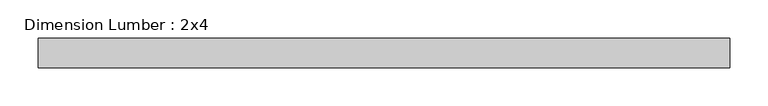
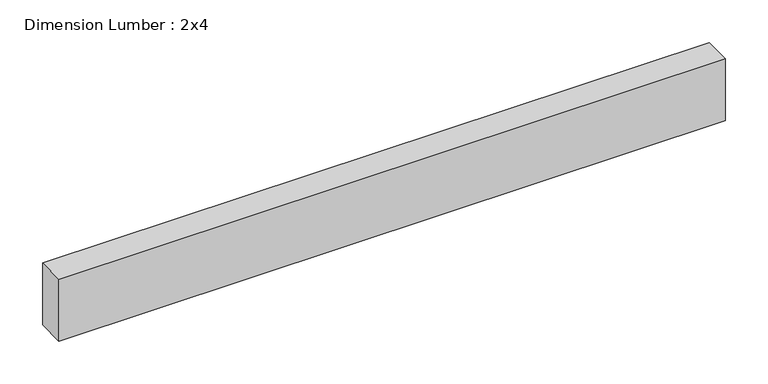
"""IFC4 building model written with IfcOpenShell, lengths in millimetres: beam geometry, Dimension Lumber : 2x4."""

import ifcopenshell
import ifcopenshell.guid

model = None  # the IFC model being written
_history = None  # IfcOwnerHistory: only IFC2X3 demands one
_inside = {}  # id of a spatial element -> (the spatial element, [elements in it])
_under = {}  # id of a project, library or spatial element -> (it, [spatial elements below it])
_declared = {}  # id of a project -> (the project, [libraries it declares])
_typed = {}  # id of a type object -> (the type object, [elements of that type])
_made_of = {}  # id of a material, layer set ... -> (it, [elements and type objects made of it])


def new_model(schema):
    """Start an empty IFC model of exactly this schema.

    Asked for "IFC4X3", IfcOpenShell would pick the latest addendum, in which some entities
    have other attributes; the version numbers below select the first issue.
    IFC2X3 requires an IfcOwnerHistory on every rooted entity: one is made here for all.
    """
    global model, _history
    if schema == "IFC4X3":
        model = ifcopenshell.file(schema_version=(4, 3, 0, 0))
    else:
        model = ifcopenshell.file(schema=schema)
    _inside.clear()
    _under.clear()
    _declared.clear()
    _typed.clear()
    _made_of.clear()
    _history = None
    if model.schema == "IFC2X3":
        org = make("IfcOrganization", Name="unknown")
        user = make(
            "IfcPersonAndOrganization",
            ThePerson=make("IfcPerson", FamilyName="unknown"),
            TheOrganization=org,
        )
        app = make(
            "IfcApplication",
            ApplicationDeveloper=org,
            Version="unknown",
            ApplicationFullName="unknown",
            ApplicationIdentifier="unknown",
        )
        _history = make(
            "IfcOwnerHistory",
            OwningUser=user,
            OwningApplication=app,
            ChangeAction="ADDED",
            CreationDate=0,
        )
    return model


def make(cls, **values):
    """One entity of the class cls with the attributes given. An attribute that is None is left unset."""
    return model.create_entity(
        cls, **{name: value for name, value in values.items() if value is not None}
    )


def rooted(cls, **values):
    """An entity with a GlobalId (a new one), such as an element, a storey or a relation."""
    return make(cls, GlobalId=ifcopenshell.guid.new(), OwnerHistory=_history, **values)


def si_unit(unit_type, name, prefix=None):
    """IfcSIUnit, for example si_unit("LENGTHUNIT", "METRE", prefix="MILLI")."""
    return make("IfcSIUnit", UnitType=unit_type, Prefix=prefix, Name=name)


def assignment(units):
    """IfcUnitAssignment: the units of a project."""
    return None if units is None else make("IfcUnitAssignment", Units=units)


def point(xyz):
    """IfcCartesianPoint."""
    return None if xyz is None else make("IfcCartesianPoint", Coordinates=xyz)


def direction(xyz):
    """IfcDirection."""
    return None if xyz is None else make("IfcDirection", DirectionRatios=xyz)


def frame(location, z_axis=None, x_axis=None):
    """IfcAxis2Placement3D, a coordinate frame: its origin and axes. An axis left out is left unset."""
    return make(
        "IfcAxis2Placement3D",
        Location=point(location),
        Axis=direction(z_axis),
        RefDirection=direction(x_axis),
    )


def origin():
    """The frame at (0, 0, 0) with its axes left unset."""
    return frame((0.0, 0.0, 0.0))


def place(relative_to, where):
    """IfcLocalPlacement: puts the frame where relative to a parent placement (None: the world)."""
    return make(
        "IfcLocalPlacement", PlacementRelTo=relative_to, RelativePlacement=where
    )


def context(
    kind, dimensions, precision=None, world=None, true_north=None, identifier=None
):
    """IfcGeometricRepresentationContext, for example the 3D "Model" context."""
    return make(
        "IfcGeometricRepresentationContext",
        ContextIdentifier=identifier,
        ContextType=kind,
        CoordinateSpaceDimension=dimensions,
        Precision=precision,
        WorldCoordinateSystem=world,
        TrueNorth=true_north,
    )


def project(units=None, contexts=None):
    """IfcProject with its units and contexts."""
    return rooted(
        "IfcProject",
        Name="project",
        RepresentationContexts=contexts,
        UnitsInContext=assignment(units),
    )


def spatial(cls, under=None, at=None, **own):
    """A site, building, storey or space (cls), placed at a placement, below another one or the project."""
    s = rooted(cls, ObjectPlacement=at, **own)
    if under is not None:
        _under.setdefault(under.id(), (under, []))[1].append(s)
    return s


def polyline(points):
    """IfcPolyline through the points."""
    return make("IfcPolyline", Points=[point(p) for p in points])


def outline(outer, holes=None, kind="AREA"):
    """IfcArbitraryClosedProfileDef: a profile drawn as a closed curve; with holes, ...WithVoids."""
    if holes is None:
        return make("IfcArbitraryClosedProfileDef", ProfileType=kind, OuterCurve=outer)
    return make(
        "IfcArbitraryProfileDefWithVoids",
        ProfileType=kind,
        OuterCurve=outer,
        InnerCurves=holes,
    )


def extrude(swept, where, along, depth):
    """IfcExtrudedAreaSolid: the profile swept, set in the frame where, extruded along a direction by depth."""
    return make(
        "IfcExtrudedAreaSolid",
        SweptArea=swept,
        Position=where,
        ExtrudedDirection=direction(along),
        Depth=depth,
    )


def shape(context_of_items, identifier, shape_type, items):
    """IfcShapeRepresentation: the items that make up one representation, for example the "Body"."""
    return make(
        "IfcShapeRepresentation",
        ContextOfItems=context_of_items,
        RepresentationIdentifier=identifier,
        RepresentationType=shape_type,
        Items=items,
    )


def source(mapping_origin, context_of_items, identifier, shape_type, items):
    """IfcRepresentationMap: a shape defined once, which mapped items show again and again."""
    return make(
        "IfcRepresentationMap",
        MappingOrigin=mapping_origin,
        MappedRepresentation=shape(context_of_items, identifier, shape_type, items),
    )


def transform(
    local_origin,
    x_axis=None,
    y_axis=None,
    z_axis=None,
    scale=None,
    scale2=None,
    scale3=None,
    uniform=True,
):
    """IfcCartesianTransformationOperator3D, or its non-uniform kind. x_axis, y_axis, z_axis: its Axis1, 2, 3."""
    if uniform:
        return make(
            "IfcCartesianTransformationOperator3D",
            Axis1=direction(x_axis),
            Axis2=direction(y_axis),
            LocalOrigin=point(local_origin),
            Scale=scale,
            Axis3=direction(z_axis),
        )
    return make(
        "IfcCartesianTransformationOperator3DnonUniform",
        Axis1=direction(x_axis),
        Axis2=direction(y_axis),
        LocalOrigin=point(local_origin),
        Scale=scale,
        Axis3=direction(z_axis),
        Scale2=scale2,
        Scale3=scale3,
    )


def mapped(mapping_source, mapping_target):
    """IfcMappedItem: shows the shape of a source again, moved by a transform."""
    return make(
        "IfcMappedItem", MappingSource=mapping_source, MappingTarget=mapping_target
    )


def made_of(thing, what):
    """Note that an element or type object is made of a material, layer set ...; save() writes the relation."""
    if what is not None:
        _made_of.setdefault(what.id(), (what, []))[1].append(thing)
    return thing


def element(
    cls,
    number,
    at=None,
    inside=None,
    cuts=None,
    type_object=None,
    material=None,
    context=None,
    identifier="Body",
    shape_type=None,
    held_by="IfcProductDefinitionShape",
    body=None,
    shapes=None,
    **own,
):
    """One element of the class cls, such as IfcWall. Its Tag is "e" and its number.

    at: its placement. inside: the storey or other place that contains it. cuts: it is an
    opening in that element (IfcRelVoidsElement). A single representation is given by context,
    identifier, shape_type and body (its items); several are given by shapes. held_by: the class
    of the entity that holds the representations. save() writes the other relations.
    """
    e = rooted(cls, Tag="e%d" % number, ObjectPlacement=at, **own)
    if body is not None:
        shapes = [shape(context, identifier, shape_type, body)]
    if shapes is not None:
        e.Representation = make(held_by, Representations=shapes)
    if inside is not None:
        _inside.setdefault(inside.id(), (inside, []))[1].append(e)
    if cuts is not None:
        rooted(
            "IfcRelVoidsElement", RelatingBuildingElement=cuts, RelatedOpeningElement=e
        )
    if type_object is not None:
        _typed.setdefault(type_object.id(), (type_object, []))[1].append(e)
    return made_of(e, material)


def aggregate(whole, parts):
    """IfcRelAggregates: a whole, such as a stair, and the parts it consists of."""
    return rooted("IfcRelAggregates", RelatingObject=whole, RelatedObjects=parts)


def save(model, path):
    """Write the relations noted so far, then the file.

    IfcRelAggregates (storeys below a building ...), IfcRelContainedInSpatialStructure (elements
    in a storey), IfcRelDefinesByType, IfcRelAssociatesMaterial and IfcRelDeclares: one each for
    every whole, place, type object, material and project.
    """
    for whole, parts in _under.values():
        aggregate(whole, parts)
    for where, things in _inside.values():
        rooted(
            "IfcRelContainedInSpatialStructure",
            RelatedElements=things,
            RelatingStructure=where,
        )
    for kind, things in _typed.values():
        rooted("IfcRelDefinesByType", RelatedObjects=things, RelatingType=kind)
    for what, things in _made_of.values():
        rooted("IfcRelAssociatesMaterial", RelatedObjects=things, RelatingMaterial=what)
    for by, libraries in _declared.values():
        rooted("IfcRelDeclares", RelatingContext=by, RelatedDefinitions=libraries)
    model.write(path)


def dimension_lumber_2x4_2dd300de(model_context):
    return source(origin(), model_context, "Body", "SweptSolid", [
        extrude(outline(polyline([(450.85, 19.05), (450.85, -19.05), (-450.85, -19.05), (-450.85, 19.05), (450.85, 19.05)])), frame((0.0, 0.0, -44.45), z_axis=(0.0, 0.0, 1.0), x_axis=(1.0, 0.0, 0.0)), (0.0, 0.0, 1.0), 88.9),
    ])


if __name__ == "__main__":
    model = new_model("IFC4")
    model_context = context("Model", 3, world=origin())
    ifc_project = project(units=[si_unit("LENGTHUNIT", "METRE", prefix="MILLI")], contexts=[model_context])
    site = spatial("IfcSite", under=ifc_project)
    building = spatial("IfcBuilding", under=site)
    placement = place(None, origin())
    dimension_lumber_2x4_shape = dimension_lumber_2x4_2dd300de(model_context)
    element("IfcBeam", 1, ObjectType="Dimension Lumber : 2x4", at=placement, inside=building, context=model_context, shape_type="MappedRepresentation", body=[
        mapped(dimension_lumber_2x4_shape, transform((0.0, 0.0, 0.0), x_axis=(1.0, 0.0, 0.0), y_axis=(0.0, 1.0, 0.0), z_axis=(0.0, 0.0, 1.0))),
    ])
    save(model, "model.ifc")
